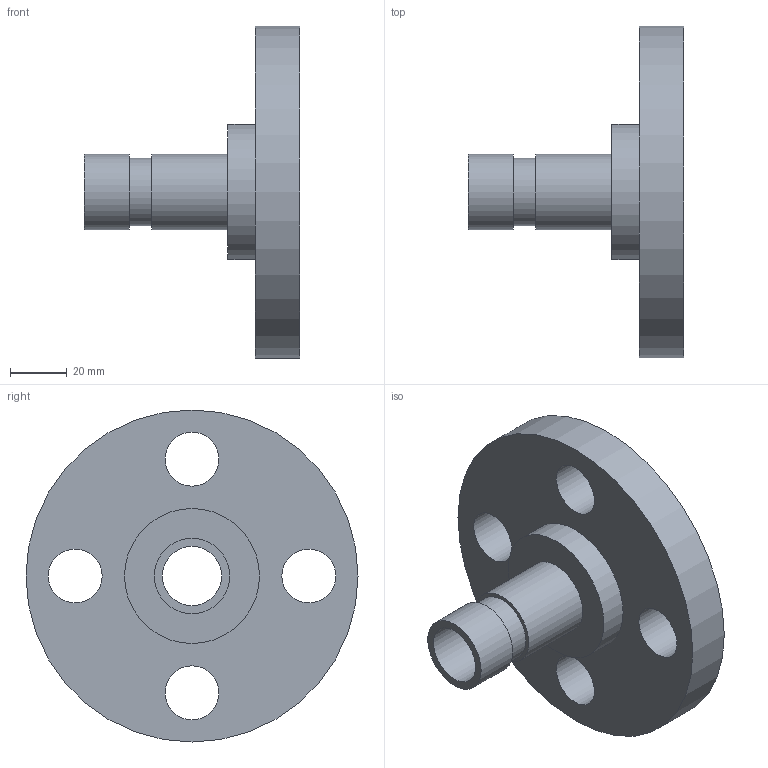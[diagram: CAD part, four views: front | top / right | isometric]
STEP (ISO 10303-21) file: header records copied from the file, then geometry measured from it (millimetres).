
FILE_DESCRIPTION(/* description */ ('VIC FLANGE ADAPTER No 46F','CAx-IF Rec.Pracs.---Representation and Presentation of Product Manufacturing Information (PMI)---4.0---2014-10-13'),/* implementation_level */ '2;1');
FILE_NAME(/* name */ 'C:\Users\kkamble\AppData\Roaming\Autodesk\ApplicationPlugins\Back Up\Victaulic_IPS_Flanged Adapter Nipple_CL 300 FF_No 46F (OGSxFLG)\Victaulic_IPS_Flanged Adapter Nipple_CL 300 FF_No 46F (OGSxFLG)_0.75 (20).stp',/* time_stamp */ '2020-07-26T22:24:28+06:00',/* author */ ('CONSTRUCTION PIPING SERVICES'),/* organization */ ('Victaulic'),/* preprocessor_version */ 'ST-DEVELOPER v17.2',/* originating_system */ 'Autodesk Inventor 2019',/* authorisation */ '');
FILE_SCHEMA (('AP242_MANAGED_MODEL_BASED_3D_ENGINEERING_MIM_LF { 1 0 10303 442 1 1 4 }'));
Length unit declared in the file: inch
Products named in the file (1): 046F-0.75
Bounding box: 76.2 x 117.35 x 117.35 mm (x, y, z)
Volume: 170918.3 mm3; surface area: 39107.2 mm2
Topology: 1 solids, 1 shells, 16 faces, 42 edges, 32 vertices
Faces by surface type: cylinder 10, plane 6
Full cylindrical faces by diameter (mm): 19.05 x4, 20.93 x1, 23.825 x1, 26.67 x2, 47.752 x1, 117.348 x1
Entity records: 622 total; most frequent: DIRECTION 108, CARTESIAN_POINT 91, ORIENTED_EDGE 84, AXIS2_PLACEMENT_3D 49, EDGE_CURVE 42, CIRCLE 32, VERTEX_POINT 32, EDGE_LOOP 30
